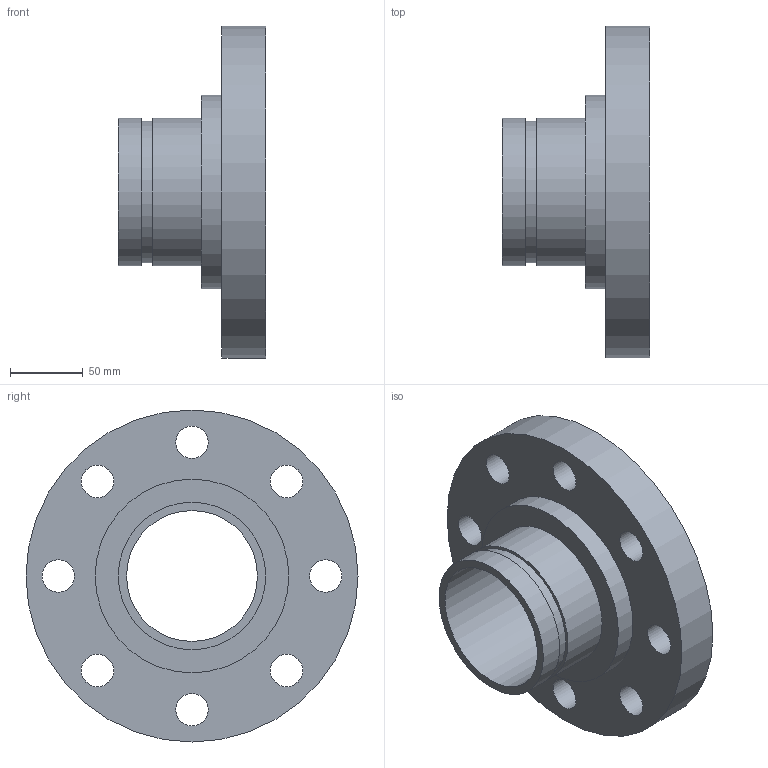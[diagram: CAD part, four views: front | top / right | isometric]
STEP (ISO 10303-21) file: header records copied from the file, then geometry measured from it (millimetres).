
FILE_DESCRIPTION(/* description */ ('VIC FLANGE ADAPTER No 46F','CAx-IF Rec.Pracs.---Representation and Presentation of Product Manufacturing Information (PMI)---4.0---2014-10-13'),/* implementation_level */ '2;1');
FILE_NAME(/* name */ 'C:\Users\kkamble\AppData\Roaming\Autodesk\ApplicationPlugins\Back Up\Victaulic_IPS_Flanged Adapter Nipple_CL 300 FF_No 46F (OGSxFLG)\Victaulic_IPS_Flanged Adapter Nipple_CL 300 FF_No 46F (OGSxFLG)_3.5 (90).stp',/* time_stamp */ '2020-07-26T22:24:50+06:00',/* author */ ('CONSTRUCTION PIPING SERVICES'),/* organization */ ('Victaulic'),/* preprocessor_version */ 'ST-DEVELOPER v17.2',/* originating_system */ 'Autodesk Inventor 2019',/* authorisation */ '');
FILE_SCHEMA (('AP242_MANAGED_MODEL_BASED_3D_ENGINEERING_MIM_LF { 1 0 10303 442 1 1 4 }'));
Length unit declared in the file: inch
Products named in the file (1): 046F-03.5
Bounding box: 101.6 x 228.6 x 228.6 mm (x, y, z)
Volume: 1154375.1 mm3; surface area: 155916.1 mm2
Topology: 1 solids, 1 shells, 20 faces, 54 edges, 40 vertices
Faces by surface type: cylinder 14, plane 6
Full cylindrical faces by diameter (mm): 22.352 x8, 90.119 x1, 97.384 x1, 101.6 x2, 133.35 x1, 228.6 x1
Entity records: 782 total; most frequent: DIRECTION 136, CARTESIAN_POINT 115, ORIENTED_EDGE 108, AXIS2_PLACEMENT_3D 61, EDGE_CURVE 54, EDGE_LOOP 42, CIRCLE 40, VERTEX_POINT 40
